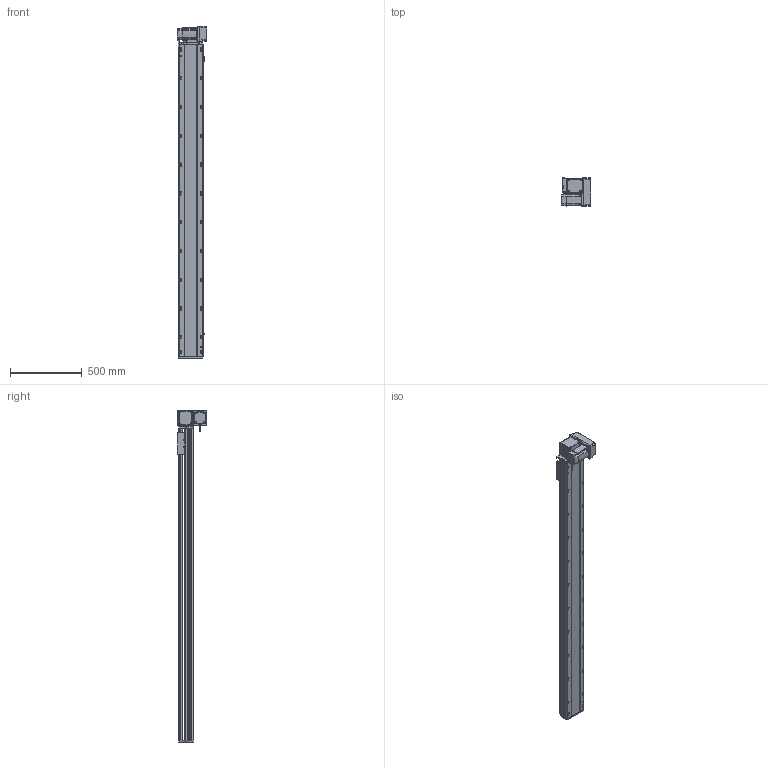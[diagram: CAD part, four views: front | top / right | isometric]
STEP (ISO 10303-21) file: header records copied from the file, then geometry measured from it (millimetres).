
FILE_DESCRIPTION (( 'STEP AP214' ), '1' );
FILE_NAME ('RTB17S-XX-1900-RM-M75-C4.STEP', '2025-12-12T02:12:00', ( '' ), ( '' ), 'SwSTEP 2.0', 'SolidWorks 2018', '' );
FILE_SCHEMA (( 'AUTOMOTIVE_DESIGN' ));
Length unit declared in the file: millimetre
Products named in the file (15): EE672^RTB17S-XX-XX-RM-M75-C4; RTB22S-GY-017P^RTB17S-RM-々湍釱蚾饜-750W_RTB17S-XX-XX-RM-M75-C4; RTB22S-GY-008-M75--萇儂啣^RTB17S-RM-々湍釱蚾饜-750W_RTB17S-XX-XX-RM-M75-C4; RTB17-R-011菁釱^RTB17S-XX-XX-RM-M75-C4; RTB17S-L-014-T20-P75--々湍釱^RTB17S-RM-々湍釱蚾饜-750W_RTB17S-XX-XX-RM-M75-C4; RTB17S-L-007奻裔^RTB17S-XX-XX-RM-M75-C4; RTB17S-XX-1900-RM-M75-C4; RTB17S-L-001-耜醱啣^RTB17S-XX-XX-RM-M75-C4; RTB22S-GY-005P^RTB17S-RM-々湍釱蚾饜-750W_RTB17S-XX-XX-RM-M75-C4; RTB17S-賑釱^RTB17S-XX-XX-RM-M75-C4; RTB17S-RM-々湍釱蚾饜-750W^RTB17S-XX-XX-RM-M75-C4; RTB17S-L-004-賑釱^RTB17S-賑釱_RTB17S-XX-XX-RM-M75-C4; 750W萇儂^RTB17S-XX-XX-RM-M75-C4; RTB22S-GY-018P^RTB17S-RM-々湍釱蚾饜-750W_RTB17S-XX-XX-RM-M75-C4; RTH13-BL-012覜茼え俋离^RTB17S-賑釱_RTB17S-XX-XX-RM-M75-C4
Assembly tree (17 placements, depth 3):
  RTB17S-XX-1900-RM-M75-C4
    RTB17-R-011菁釱^RTB17S-XX-XX-RM-M75-C4
    EE672^RTB17S-XX-XX-RM-M75-C4  x3
    RTB17S-L-001-耜醱啣^RTB17S-XX-XX-RM-M75-C4
    RTB17S-賑釱^RTB17S-XX-XX-RM-M75-C4
      RTB17S-L-004-賑釱^RTB17S-賑釱_RTB17S-XX-XX-RM-M75-C4
      RTH13-BL-012覜茼え俋离^RTB17S-賑釱_RTB17S-XX-XX-RM-M75-C4
    RTB17S-L-007奻裔^RTB17S-XX-XX-RM-M75-C4
    750W萇儂^RTB17S-XX-XX-RM-M75-C4
    RTB17S-RM-々湍釱蚾饜-750W^RTB17S-XX-XX-RM-M75-C4
      RTB17S-L-014-T20-P75--々湍釱^RTB17S-RM-々湍釱蚾饜-750W_RTB17S-XX-XX-RM-M75-C4
      RTB22S-GY-005P^RTB17S-RM-々湍釱蚾饜-750W_RTB17S-XX-XX-RM-M75-C4
      RTB22S-GY-017P^RTB17S-RM-々湍釱蚾饜-750W_RTB17S-XX-XX-RM-M75-C4  x2
      RTB22S-GY-008-M75--萇儂啣^RTB17S-RM-々湍釱蚾饜-750W_RTB17S-XX-XX-RM-M75-C4
      RTB22S-GY-018P^RTB17S-RM-々湍釱蚾饜-750W_RTB17S-XX-XX-RM-M75-C4
Bounding box: 207.4 x 200 x 2307.5 mm (x, y, z)
Volume: 17824560.9 mm3; surface area: 3177314.7 mm2
Topology: 17 solids, 17 shells, 2169 faces, 6052 edges, 3914 vertices
Faces by surface type: plane 980, cylinder 773, bspline 294, cone 110, sphere 8, torus 4
Entity records: 61942 total; most frequent: CARTESIAN_POINT 18316, ORIENTED_EDGE 8948, DIRECTION 8312, EDGE_CURVE 4474, AXIS2_PLACEMENT_3D 2934, VERTEX_POINT 2918, VECTOR 2444, LINE 2444
